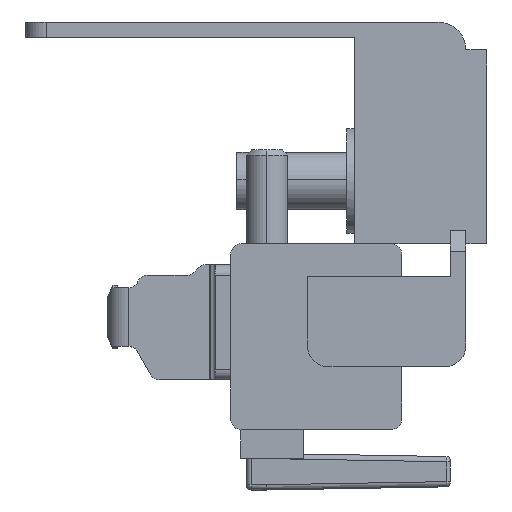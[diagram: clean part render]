
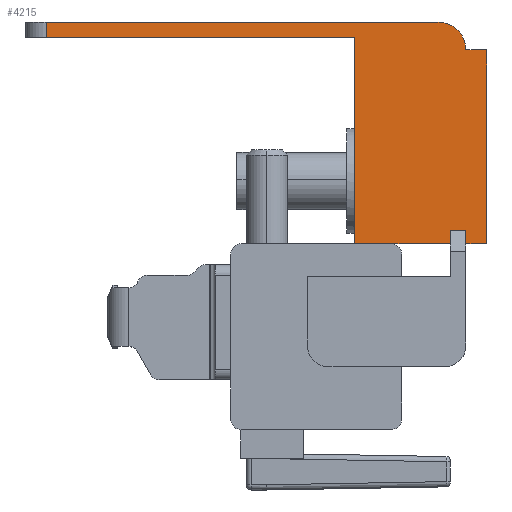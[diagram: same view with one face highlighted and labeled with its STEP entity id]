
A CAD part, left-side view. The second image highlights one B-rep face of the part: STEP entity #4215.
In plain terms, the highlighted planar face has unit normal (-1, 0, 0).
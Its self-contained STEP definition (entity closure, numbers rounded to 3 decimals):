
#42 = CARTESIAN_POINT ( 'NONE',  ( -203.1, -28.333, 16.879 ) ) ;
#122 = VECTOR ( 'NONE', #651, 1000. ) ;
#143 = CIRCLE ( 'NONE', #4822, 2.67 ) ;
#155 = CARTESIAN_POINT ( 'NONE',  ( -203.1, 11.767, 18.079 ) ) ;
#208 = DIRECTION ( 'NONE',  ( 1., 0., 0. ) ) ;
#260 = VERTEX_POINT ( 'NONE', #4041 ) ;
#332 = DIRECTION ( 'NONE',  ( 0., -1., 0. ) ) ;
#464 = ORIENTED_EDGE ( 'NONE', *, *, #1903, .F. ) ;
#500 = EDGE_CURVE ( 'NONE', #3098, #3593, #3809, .T. ) ;
#541 = ORIENTED_EDGE ( 'NONE', *, *, #2877, .F. ) ;
#651 = DIRECTION ( 'NONE',  ( 0., 1., 0. ) ) ;
#652 = LINE ( 'NONE', #2135, #1645 ) ;
#721 = LINE ( 'NONE', #1603, #1721 ) ;
#788 = DIRECTION ( 'NONE',  ( -1., 0., 0. ) ) ;
#805 = ORIENTED_EDGE ( 'NONE', *, *, #3093, .F. ) ;
#891 = DIRECTION ( 'NONE',  ( 0., 0., 1. ) ) ;
#932 = EDGE_CURVE ( 'NONE', #260, #3751, #2326, .T. ) ;
#1083 = LINE ( 'NONE', #2994, #5335 ) ;
#1145 = ORIENTED_EDGE ( 'NONE', *, *, #2252, .T. ) ;
#1191 = VERTEX_POINT ( 'NONE', #5265 ) ;
#1203 = VECTOR ( 'NONE', #4709, 1000. ) ;
#1240 = VECTOR ( 'NONE', #1647, 1000. ) ;
#1339 = LINE ( 'NONE', #3895, #1203 ) ;
#1429 = CARTESIAN_POINT ( 'NONE',  ( -203.1, -26.863, -1.651 ) ) ;
#1567 = CARTESIAN_POINT ( 'NONE',  ( -203.1, -30.333, 16.879 ) ) ;
#1579 = CARTESIAN_POINT ( 'NONE',  ( -203.1, -25.663, 19.549 ) ) ;
#1583 = LINE ( 'NONE', #1429, #3632 ) ;
#1603 = CARTESIAN_POINT ( 'NONE',  ( -203.1, -30.333, -1.651 ) ) ;
#1645 = VECTOR ( 'NONE', #2546, 1000. ) ;
#1647 = DIRECTION ( 'NONE',  ( 0., 1., 0. ) ) ;
#1721 = VECTOR ( 'NONE', #4057, 1000. ) ;
#1835 = LINE ( 'NONE', #3429, #5108 ) ;
#1903 = EDGE_CURVE ( 'NONE', #3098, #2304, #4427, .T. ) ;
#2075 = DIRECTION ( 'NONE',  ( 0., 0., -1. ) ) ;
#2135 = CARTESIAN_POINT ( 'NONE',  ( -203.1, 11.767, 17.779 ) ) ;
#2169 = EDGE_CURVE ( 'NONE', #3787, #3356, #1083, .T. ) ;
#2239 = ORIENTED_EDGE ( 'NONE', *, *, #3441, .F. ) ;
#2246 = VECTOR ( 'NONE', #4069, 1000. ) ;
#2252 = EDGE_CURVE ( 'NONE', #1191, #3119, #3986, .T. ) ;
#2277 = PLANE ( 'NONE',  #2403 ) ;
#2304 = VERTEX_POINT ( 'NONE', #4119 ) ;
#2326 = LINE ( 'NONE', #4319, #122 ) ;
#2403 = AXIS2_PLACEMENT_3D ( 'NONE', #5149, #208, #3115 ) ;
#2427 = CARTESIAN_POINT ( 'NONE',  ( -203.1, -26.863, -0.361 ) ) ;
#2435 = CARTESIAN_POINT ( 'NONE',  ( -203.1, 14.667, 19.549 ) ) ;
#2546 = DIRECTION ( 'NONE',  ( 0., 0., -1. ) ) ;
#2630 = ORIENTED_EDGE ( 'NONE', *, *, #4446, .T. ) ;
#2656 = CARTESIAN_POINT ( 'NONE',  ( -203.1, 11.767, 19.549 ) ) ;
#2829 = CARTESIAN_POINT ( 'NONE',  ( -203.1, -28.333, -0.361 ) ) ;
#2877 = EDGE_CURVE ( 'NONE', #4642, #4342, #4555, .T. ) ;
#2961 = ORIENTED_EDGE ( 'NONE', *, *, #4553, .F. ) ;
#2994 = CARTESIAN_POINT ( 'NONE',  ( -203.1, -28.333, -1.651 ) ) ;
#3008 = DIRECTION ( 'NONE',  ( 0., 0., 1. ) ) ;
#3093 = EDGE_CURVE ( 'NONE', #3356, #5226, #1339, .T. ) ;
#3098 = VERTEX_POINT ( 'NONE', #5130 ) ;
#3115 = DIRECTION ( 'NONE',  ( 0., 1., 0. ) ) ;
#3119 = VERTEX_POINT ( 'NONE', #5148 ) ;
#3281 = CARTESIAN_POINT ( 'NONE',  ( -203.1, -25.663, 16.879 ) ) ;
#3356 = VERTEX_POINT ( 'NONE', #2829 ) ;
#3368 = VECTOR ( 'NONE', #2075, 1000. ) ;
#3377 = CARTESIAN_POINT ( 'NONE',  ( -203.1, -30.333, 16.879 ) ) ;
#3396 = FACE_OUTER_BOUND ( 'NONE', #4031, .T. ) ;
#3429 = CARTESIAN_POINT ( 'NONE',  ( -203.1, -17.713, -1.651 ) ) ;
#3441 = EDGE_CURVE ( 'NONE', #2304, #3787, #721, .T. ) ;
#3593 = VERTEX_POINT ( 'NONE', #42 ) ;
#3632 = VECTOR ( 'NONE', #3881, 1000. ) ;
#3675 = DIRECTION ( 'NONE',  ( 0., 0., -1. ) ) ;
#3751 = VERTEX_POINT ( 'NONE', #155 ) ;
#3787 = VERTEX_POINT ( 'NONE', #4297 ) ;
#3809 = LINE ( 'NONE', #1567, #1240 ) ;
#3855 = VECTOR ( 'NONE', #332, 1000. ) ;
#3881 = DIRECTION ( 'NONE',  ( 0., 0., -1. ) ) ;
#3895 = CARTESIAN_POINT ( 'NONE',  ( -203.1, -26.863, -0.361 ) ) ;
#3972 = ORIENTED_EDGE ( 'NONE', *, *, #4816, .T. ) ;
#3986 = LINE ( 'NONE', #4392, #3855 ) ;
#4031 = EDGE_LOOP ( 'NONE', ( #2961, #1145, #4848, #805, #5096, #2239, #464, #4382, #2630, #541, #3972, #4356 ) ) ;
#4041 = CARTESIAN_POINT ( 'NONE',  ( -203.1, -17.713, 18.079 ) ) ;
#4057 = DIRECTION ( 'NONE',  ( 0., 1., 0. ) ) ;
#4069 = DIRECTION ( 'NONE',  ( 0., -1., 0. ) ) ;
#4119 = CARTESIAN_POINT ( 'NONE',  ( -203.1, -30.333, -1.651 ) ) ;
#4173 = EDGE_CURVE ( 'NONE', #5226, #3119, #1583, .T. ) ;
#4215 = ADVANCED_FACE ( 'NONE', ( #3396 ), #2277, .F. ) ;
#4297 = CARTESIAN_POINT ( 'NONE',  ( -203.1, -28.333, -1.651 ) ) ;
#4319 = CARTESIAN_POINT ( 'NONE',  ( -203.1, -29.063, 18.079 ) ) ;
#4342 = VERTEX_POINT ( 'NONE', #1579 ) ;
#4356 = ORIENTED_EDGE ( 'NONE', *, *, #932, .F. ) ;
#4382 = ORIENTED_EDGE ( 'NONE', *, *, #500, .T. ) ;
#4392 = CARTESIAN_POINT ( 'NONE',  ( -203.1, -17.713, -1.651 ) ) ;
#4427 = LINE ( 'NONE', #3377, #3368 ) ;
#4446 = EDGE_CURVE ( 'NONE', #3593, #4342, #143, .T. ) ;
#4553 = EDGE_CURVE ( 'NONE', #1191, #260, #1835, .T. ) ;
#4555 = LINE ( 'NONE', #2435, #2246 ) ;
#4642 = VERTEX_POINT ( 'NONE', #2656 ) ;
#4709 = DIRECTION ( 'NONE',  ( 0., 1., 0. ) ) ;
#4816 = EDGE_CURVE ( 'NONE', #4642, #3751, #652, .T. ) ;
#4822 = AXIS2_PLACEMENT_3D ( 'NONE', #3281, #788, #3675 ) ;
#4848 = ORIENTED_EDGE ( 'NONE', *, *, #4173, .F. ) ;
#5096 = ORIENTED_EDGE ( 'NONE', *, *, #2169, .F. ) ;
#5108 = VECTOR ( 'NONE', #3008, 1000. ) ;
#5130 = CARTESIAN_POINT ( 'NONE',  ( -203.1, -30.333, 16.879 ) ) ;
#5148 = CARTESIAN_POINT ( 'NONE',  ( -203.1, -26.863, -1.651 ) ) ;
#5149 = CARTESIAN_POINT ( 'NONE',  ( -203.1, -29.063, 15.779 ) ) ;
#5226 = VERTEX_POINT ( 'NONE', #2427 ) ;
#5265 = CARTESIAN_POINT ( 'NONE',  ( -203.1, -17.713, -1.651 ) ) ;
#5335 = VECTOR ( 'NONE', #891, 1000. ) ;
